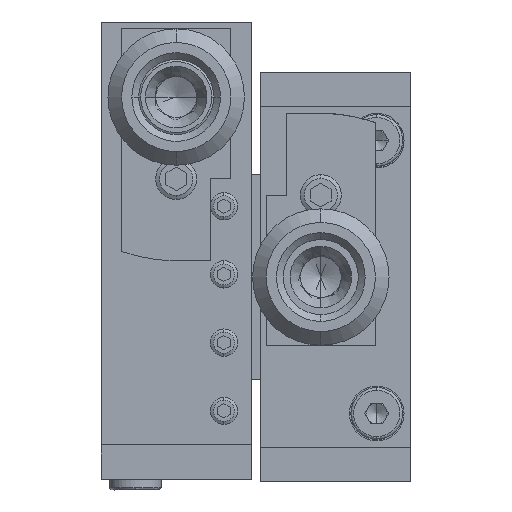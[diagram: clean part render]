
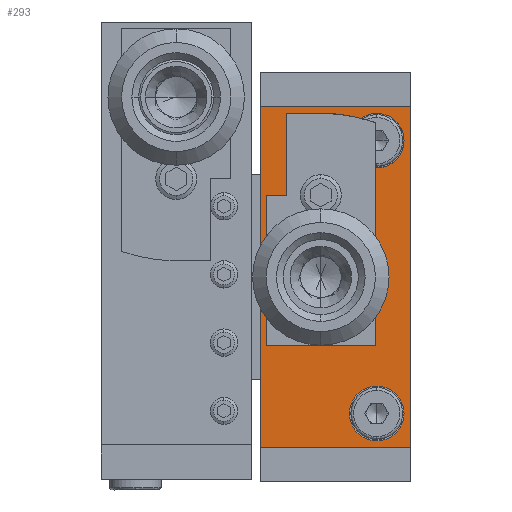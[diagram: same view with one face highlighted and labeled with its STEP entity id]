
A CAD part, front view. The second image highlights one B-rep face of the part: STEP entity #293.
In plain terms, the highlighted planar face has unit normal (0, -1, 0).
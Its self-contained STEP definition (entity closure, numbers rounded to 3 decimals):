
#293 = ADVANCED_FACE ( 'NONE', ( #26523, #26521, #26526 ), #28394, .T. ) ;
#1560 = EDGE_CURVE ( 'NONE', #23399, #22995, #4334, .T. ) ;
#1564 = EDGE_CURVE ( 'NONE', #23451, #22537, #4336, .T. ) ;
#4334 = CIRCLE ( 'NONE', #5183, 2. ) ;
#4336 = CIRCLE ( 'NONE', #5192, 2. ) ;
#4788 = CIRCLE ( 'NONE', #16177, 12. ) ;
#4790 = CIRCLE ( 'NONE', #16179, 2. ) ;
#4791 = CIRCLE ( 'NONE', #16191, 2. ) ;
#5183 = AXIS2_PLACEMENT_3D ( 'NONE', #32842, #32843, #32844 ) ;
#5192 = AXIS2_PLACEMENT_3D ( 'NONE', #32854, #32855, #32856 ) ;
#6371 = ORIENTED_EDGE ( 'NONE', *, *, #24256, .T. ) ;
#6407 = ORIENTED_EDGE ( 'NONE', *, *, #24259, .T. ) ;
#6414 = ORIENTED_EDGE ( 'NONE', *, *, #24226, .T. ) ;
#6417 = ORIENTED_EDGE ( 'NONE', *, *, #24239, .T. ) ;
#6424 = ORIENTED_EDGE ( 'NONE', *, *, #24251, .T. ) ;
#6430 = ORIENTED_EDGE ( 'NONE', *, *, #24265, .T. ) ;
#6432 = ORIENTED_EDGE ( 'NONE', *, *, #24260, .T. ) ;
#6433 = ORIENTED_EDGE ( 'NONE', *, *, #24299, .T. ) ;
#6439 = ORIENTED_EDGE ( 'NONE', *, *, #24269, .T. ) ;
#6450 = ORIENTED_EDGE ( 'NONE', *, *, #24276, .T. ) ;
#6454 = ORIENTED_EDGE ( 'NONE', *, *, #24263, .T. ) ;
#6494 = ORIENTED_EDGE ( 'NONE', *, *, #1564, .T. ) ;
#6495 = ORIENTED_EDGE ( 'NONE', *, *, #24297, .T. ) ;
#6497 = ORIENTED_EDGE ( 'NONE', *, *, #1560, .T. ) ;
#6500 = ORIENTED_EDGE ( 'NONE', *, *, #24264, .T. ) ;
#15193 = VERTEX_POINT ( 'NONE', #16843 ) ;
#15241 = VERTEX_POINT ( 'NONE', #16891 ) ;
#15319 = VERTEX_POINT ( 'NONE', #16969 ) ;
#15417 = VERTEX_POINT ( 'NONE', #20075 ) ;
#15519 = VERTEX_POINT ( 'NONE', #20177 ) ;
#15520 = VERTEX_POINT ( 'NONE', #20178 ) ;
#15522 = VERTEX_POINT ( 'NONE', #20180 ) ;
#15647 = VERTEX_POINT ( 'NONE', #20260 ) ;
#15665 = VERTEX_POINT ( 'NONE', #20278 ) ;
#15668 = VERTEX_POINT ( 'NONE', #20281 ) ;
#15669 = VERTEX_POINT ( 'NONE', #20282 ) ;
#16154 = VECTOR ( 'NONE', #22100, 1000. ) ;
#16168 = VECTOR ( 'NONE', #22156, 1000. ) ;
#16177 = AXIS2_PLACEMENT_3D ( 'NONE', #22166, #22205, #22206 ) ;
#16179 = AXIS2_PLACEMENT_3D ( 'NONE', #22241, #22243, #22244 ) ;
#16185 = VECTOR ( 'NONE', #22232, 1000. ) ;
#16189 = VECTOR ( 'NONE', #22249, 1000. ) ;
#16191 = AXIS2_PLACEMENT_3D ( 'NONE', #22245, #22267, #22268 ) ;
#16193 = VECTOR ( 'NONE', #22262, 1000. ) ;
#16195 = VECTOR ( 'NONE', #22266, 1000. ) ;
#16198 = VECTOR ( 'NONE', #22286, 1000. ) ;
#16207 = VECTOR ( 'NONE', #22319, 1000. ) ;
#16225 = VECTOR ( 'NONE', #22384, 1000. ) ;
#16226 = VECTOR ( 'NONE', #22390, 1000. ) ;
#16843 = CARTESIAN_POINT ( 'NONE',  ( 32.837, -16.297, 90.671 ) ) ;
#16891 = CARTESIAN_POINT ( 'NONE',  ( 33.237, -16.297, 84.171 ) ) ;
#16969 = CARTESIAN_POINT ( 'NONE',  ( 40.182, -16.297, 89.804 ) ) ;
#20075 = CARTESIAN_POINT ( 'NONE',  ( 41.237, -16.297, 73.171 ) ) ;
#20177 = CARTESIAN_POINT ( 'NONE',  ( 33.237, -16.297, 73.171 ) ) ;
#20178 = CARTESIAN_POINT ( 'NONE',  ( 43.837, -16.297, 90.671 ) ) ;
#20180 = CARTESIAN_POINT ( 'NONE',  ( 34.737, -16.297, 84.171 ) ) ;
#20260 = CARTESIAN_POINT ( 'NONE',  ( 32.837, -16.297, 65.671 ) ) ;
#20278 = CARTESIAN_POINT ( 'NONE',  ( 37.237, -16.297, 90.171 ) ) ;
#20281 = CARTESIAN_POINT ( 'NONE',  ( 34.737, -16.297, 90.171 ) ) ;
#20282 = CARTESIAN_POINT ( 'NONE',  ( 43.837, -16.297, 65.671 ) ) ;
#20598 = CARTESIAN_POINT ( 'NONE',  ( 39.337, -16.297, 68.171 ) ) ;
#20827 = CARTESIAN_POINT ( 'NONE',  ( 41.237, -16.297, 86.174 ) ) ;
#20920 = CARTESIAN_POINT ( 'NONE',  ( 43.337, -16.297, 88.171 ) ) ;
#20972 = CARTESIAN_POINT ( 'NONE',  ( 43.337, -16.297, 68.171 ) ) ;
#22098 = LINE ( 'NONE', #22099, #16154 ) ;
#22099 = CARTESIAN_POINT ( 'NONE',  ( 32.837, -16.297, 65.671 ) ) ;
#22100 = DIRECTION ( 'NONE',  ( 0., 0., -1. ) ) ;
#22153 = LINE ( 'NONE', #22155, #16168 ) ;
#22155 = CARTESIAN_POINT ( 'NONE',  ( 32.837, -16.297, 90.671 ) ) ;
#22156 = DIRECTION ( 'NONE',  ( -1., 0., 0. ) ) ;
#22166 = CARTESIAN_POINT ( 'NONE',  ( 37.237, -16.297, 78.171 ) ) ;
#22205 = DIRECTION ( 'NONE',  ( 0., 1., 0. ) ) ;
#22206 = DIRECTION ( 'NONE',  ( -1., 0., 0. ) ) ;
#22229 = LINE ( 'NONE', #22230, #16185 ) ;
#22230 = CARTESIAN_POINT ( 'NONE',  ( 34.737, -16.297, 65.671 ) ) ;
#22232 = DIRECTION ( 'NONE',  ( 0., 0., 1. ) ) ;
#22241 = CARTESIAN_POINT ( 'NONE',  ( 41.337, -16.297, 68.171 ) ) ;
#22243 = DIRECTION ( 'NONE',  ( 0., 1., 0. ) ) ;
#22244 = DIRECTION ( 'NONE',  ( 1., 0., 0. ) ) ;
#22245 = CARTESIAN_POINT ( 'NONE',  ( 41.337, -16.297, 88.171 ) ) ;
#22246 = LINE ( 'NONE', #22247, #16189 ) ;
#22247 = CARTESIAN_POINT ( 'NONE',  ( 43.837, -16.297, 65.671 ) ) ;
#22249 = DIRECTION ( 'NONE',  ( 1., 0., 0. ) ) ;
#22259 = LINE ( 'NONE', #22261, #16193 ) ;
#22261 = CARTESIAN_POINT ( 'NONE',  ( 43.837, -16.297, 73.171 ) ) ;
#22262 = DIRECTION ( 'NONE',  ( -1., 0., 0. ) ) ;
#22264 = LINE ( 'NONE', #22265, #16195 ) ;
#22265 = CARTESIAN_POINT ( 'NONE',  ( 41.237, -16.297, 65.671 ) ) ;
#22266 = DIRECTION ( 'NONE',  ( 0., 0., -1. ) ) ;
#22267 = DIRECTION ( 'NONE',  ( 0., 1., 0. ) ) ;
#22268 = DIRECTION ( 'NONE',  ( 1., 0., 0. ) ) ;
#22284 = LINE ( 'NONE', #22285, #16198 ) ;
#22285 = CARTESIAN_POINT ( 'NONE',  ( 33.237, -16.297, 65.671 ) ) ;
#22286 = DIRECTION ( 'NONE',  ( 0., 0., 1. ) ) ;
#22315 = LINE ( 'NONE', #22317, #16207 ) ;
#22317 = CARTESIAN_POINT ( 'NONE',  ( 43.837, -16.297, 84.171 ) ) ;
#22319 = DIRECTION ( 'NONE',  ( 1., 0., 0. ) ) ;
#22382 = LINE ( 'NONE', #22383, #16225 ) ;
#22383 = CARTESIAN_POINT ( 'NONE',  ( 43.837, -16.297, 65.671 ) ) ;
#22384 = DIRECTION ( 'NONE',  ( 0., 0., 1. ) ) ;
#22388 = LINE ( 'NONE', #22389, #16226 ) ;
#22389 = CARTESIAN_POINT ( 'NONE',  ( 43.837, -16.297, 90.171 ) ) ;
#22390 = DIRECTION ( 'NONE',  ( 1., 0., 0. ) ) ;
#22537 = VERTEX_POINT ( 'NONE', #20598 ) ;
#22995 = VERTEX_POINT ( 'NONE', #20827 ) ;
#23399 = VERTEX_POINT ( 'NONE', #20920 ) ;
#23451 = VERTEX_POINT ( 'NONE', #20972 ) ;
#24226 = EDGE_CURVE ( 'NONE', #15193, #15647, #22098, .T. ) ;
#24239 = EDGE_CURVE ( 'NONE', #15520, #15193, #22153, .T. ) ;
#24251 = EDGE_CURVE ( 'NONE', #15665, #15319, #4788, .T. ) ;
#24256 = EDGE_CURVE ( 'NONE', #15522, #15668, #22229, .T. ) ;
#24259 = EDGE_CURVE ( 'NONE', #22537, #23451, #4790, .T. ) ;
#24260 = EDGE_CURVE ( 'NONE', #15647, #15669, #22246, .T. ) ;
#24263 = EDGE_CURVE ( 'NONE', #15417, #15519, #22259, .T. ) ;
#24264 = EDGE_CURVE ( 'NONE', #22995, #15417, #22264, .T. ) ;
#24265 = EDGE_CURVE ( 'NONE', #15319, #23399, #4791, .T. ) ;
#24269 = EDGE_CURVE ( 'NONE', #15519, #15241, #22284, .T. ) ;
#24276 = EDGE_CURVE ( 'NONE', #15241, #15522, #22315, .T. ) ;
#24297 = EDGE_CURVE ( 'NONE', #15669, #15520, #22382, .T. ) ;
#24299 = EDGE_CURVE ( 'NONE', #15668, #15665, #22388, .T. ) ;
#24678 = EDGE_LOOP ( 'NONE', ( #6494, #6407 ) ) ;
#24724 = EDGE_LOOP ( 'NONE', ( #6371, #6433, #6424, #6430, #6497, #6500, #6454, #6439, #6450 ) ) ;
#24778 = EDGE_LOOP ( 'NONE', ( #6417, #6414, #6432, #6495 ) ) ;
#26521 = FACE_OUTER_BOUND ( 'NONE', #24778, .T. ) ;
#26523 = FACE_BOUND ( 'NONE', #24678, .T. ) ;
#26526 = FACE_BOUND ( 'NONE', #24724, .T. ) ;
#26528 = AXIS2_PLACEMENT_3D ( 'NONE', #28395, #28396, #28397 ) ;
#28394 = PLANE ( 'NONE',  #26528 ) ;
#28395 = CARTESIAN_POINT ( 'NONE',  ( 43.837, -16.297, 65.671 ) ) ;
#28396 = DIRECTION ( 'NONE',  ( 0., -1., 0. ) ) ;
#28397 = DIRECTION ( 'NONE',  ( 1., 0., 0. ) ) ;
#32842 = CARTESIAN_POINT ( 'NONE',  ( 41.337, -16.297, 88.171 ) ) ;
#32843 = DIRECTION ( 'NONE',  ( 0., 1., 0. ) ) ;
#32844 = DIRECTION ( 'NONE',  ( 1., 0., 0. ) ) ;
#32854 = CARTESIAN_POINT ( 'NONE',  ( 41.337, -16.297, 68.171 ) ) ;
#32855 = DIRECTION ( 'NONE',  ( 0., 1., 0. ) ) ;
#32856 = DIRECTION ( 'NONE',  ( 1., 0., 0. ) ) ;
